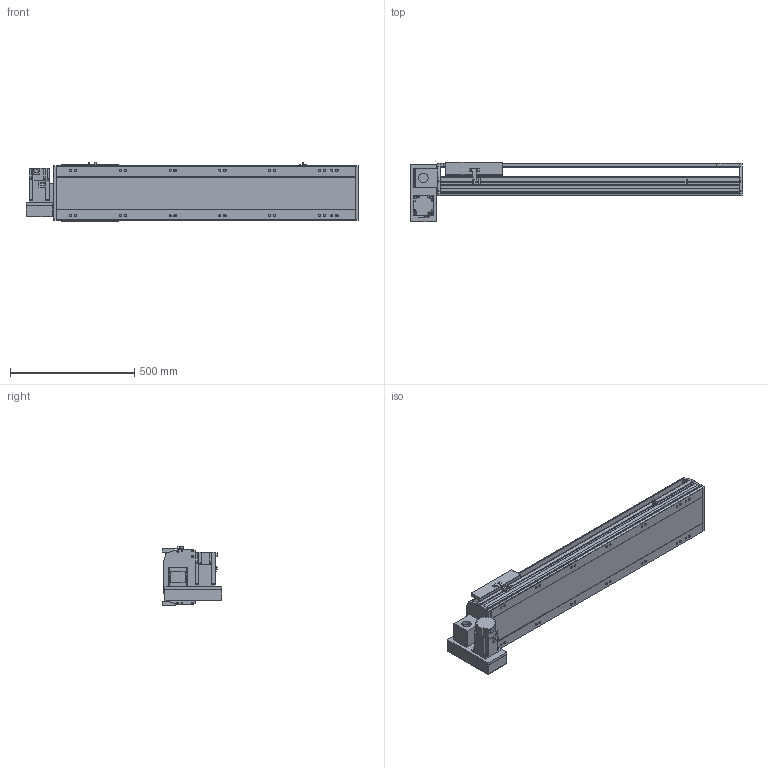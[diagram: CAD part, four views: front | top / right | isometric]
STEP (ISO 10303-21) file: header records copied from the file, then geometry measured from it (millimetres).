
FILE_DESCRIPTION(/* description */ ('STEP AP214'),/* implementation_level */ '2;1');
FILE_NAME(/* name */ 'PBS220-P40-S850-LD-T75-C1-N(0)',/* time_stamp */ '2022-06-27T09:43:27+02:00',/* author */ ('License CC BY-ND 4.0'),/* organization */ ('CADENAS'),/* preprocessor_version */ 'ST-DEVELOPER v18.102',/* originating_system */ 'PARTsolutions',/* authorisation */ ' ');
FILE_SCHEMA (('AUTOMOTIVE_DESIGN {1 0 10303 214 3 1 1}'));
Length unit declared in the file: millimetre
Products named in the file (7): PBS220-P40-S850-LD-T75-C1-N(0); PBS220_sensor; PBS220_plant; PBS220_sliser; T75-p1; PBS220T-LD_motors; PBS220-S850()_body
Assembly tree (8 placements, depth 2):
  PBS220-P40-S850-LD-T75-C1-N(0)
    PBS220_sensor  x3
    PBS220_plant
    PBS220_sliser
    T75-p1
    PBS220T-LD_motors
    PBS220-S850()_body
Bounding box: 1334 x 239 x 238.5 mm (x, y, z)
Volume: 19432282.2 mm3; surface area: 1929968 mm2
Topology: 8 solids, 8 shells, 902 faces, 2368 edges, 1540 vertices
Faces by surface type: plane 594, cylinder 270, cone 38
Full cylindrical faces by diameter (mm): 2.013 x4, 4.5 x14, 4.917 x4, 6 x7, 6.647 x8, 8 x10, 8.376 x14, 8.5 x14, 10 x6, 14 x14, 38 x2, 40 x1, 70 x1
Entity records: 25316 total; most frequent: CARTESIAN_POINT 4426, DIRECTION 4401, ORIENTED_EDGE 4070, EDGE_CURVE 2035, AXIS2_PLACEMENT_3D 1529, VERTEX_POINT 1400, LINE 1343, VECTOR 1343
